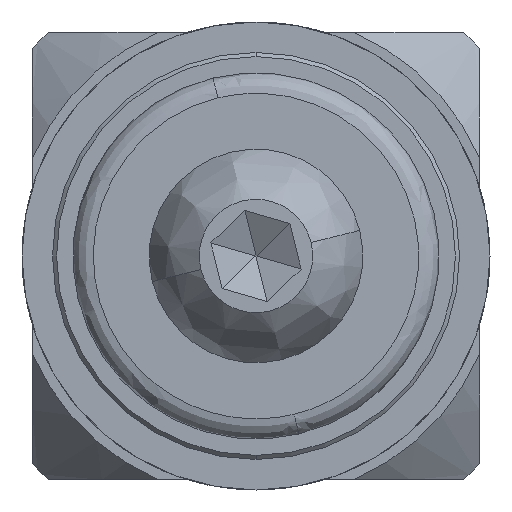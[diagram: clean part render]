
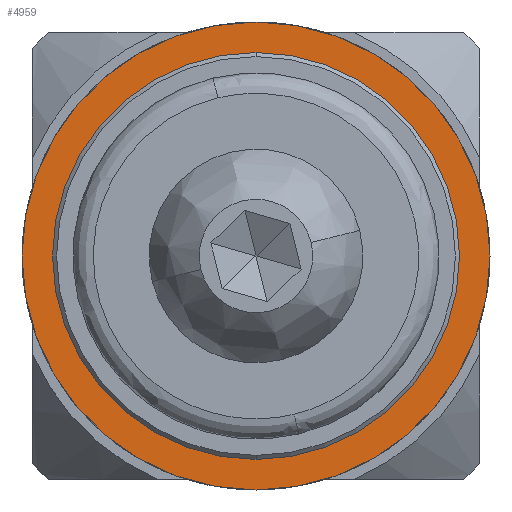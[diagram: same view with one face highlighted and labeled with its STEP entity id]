
A CAD part, front view. The second image highlights one B-rep face of the part: STEP entity #4959.
In plain terms, the highlighted planar face has unit normal (0, -1, 0).
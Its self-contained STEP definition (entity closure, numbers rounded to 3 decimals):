
#123 = EDGE_LOOP ( 'NONE', ( #5303, #2820 ) ) ;
#136 = CIRCLE ( 'NONE', #972, 10. ) ;
#329 = EDGE_LOOP ( 'NONE', ( #2823, #5042 ) ) ;
#596 = DIRECTION ( 'NONE',  ( 0., 1., 0. ) ) ;
#654 = AXIS2_PLACEMENT_3D ( 'NONE', #3501, #596, #1371 ) ;
#697 = CARTESIAN_POINT ( 'NONE',  ( -3.515, 30.535, 42. ) ) ;
#705 = CARTESIAN_POINT ( 'NONE',  ( -3.515, 30.535, 22. ) ) ;
#838 = AXIS2_PLACEMENT_3D ( 'NONE', #2088, #2081, #2071 ) ;
#906 = AXIS2_PLACEMENT_3D ( 'NONE', #2255, #2291, #1795 ) ;
#972 = AXIS2_PLACEMENT_3D ( 'NONE', #1852, #2425, #2138 ) ;
#1016 = CIRCLE ( 'NONE', #906, 10. ) ;
#1102 = FACE_OUTER_BOUND ( 'NONE', #123, .T. ) ;
#1371 = DIRECTION ( 'NONE',  ( 1., 0., 0. ) ) ;
#1464 = CARTESIAN_POINT ( 'NONE',  ( -15.015, 30.535, 32. ) ) ;
#1575 = CARTESIAN_POINT ( 'NONE',  ( 7.985, 30.535, 32. ) ) ;
#1795 = DIRECTION ( 'NONE',  ( 0., 0., -1. ) ) ;
#1848 = AXIS2_PLACEMENT_3D ( 'NONE', #2064, #2107, #4170 ) ;
#1852 = CARTESIAN_POINT ( 'NONE',  ( -3.515, 30.535, 32. ) ) ;
#1987 = EDGE_CURVE ( 'NONE', #5030, #4577, #4579, .T. ) ;
#2064 = CARTESIAN_POINT ( 'NONE',  ( -3.515, 30.535, 32. ) ) ;
#2071 = DIRECTION ( 'NONE',  ( 0., 0., 1. ) ) ;
#2081 = DIRECTION ( 'NONE',  ( 0., 1., 0. ) ) ;
#2088 = CARTESIAN_POINT ( 'NONE',  ( -15.153, 30.535, 20.362 ) ) ;
#2107 = DIRECTION ( 'NONE',  ( 0., 1., 0. ) ) ;
#2121 = PLANE ( 'NONE',  #838 ) ;
#2138 = DIRECTION ( 'NONE',  ( 0., 0., -1. ) ) ;
#2245 = FACE_BOUND ( 'NONE', #329, .T. ) ;
#2255 = CARTESIAN_POINT ( 'NONE',  ( -3.515, 30.535, 32. ) ) ;
#2291 = DIRECTION ( 'NONE',  ( 0., 1., 0. ) ) ;
#2425 = DIRECTION ( 'NONE',  ( 0., 1., 0. ) ) ;
#2820 = ORIENTED_EDGE ( 'NONE', *, *, #1987, .F. ) ;
#2823 = ORIENTED_EDGE ( 'NONE', *, *, #3603, .T. ) ;
#3501 = CARTESIAN_POINT ( 'NONE',  ( -3.515, 30.535, 32. ) ) ;
#3603 = EDGE_CURVE ( 'NONE', #5100, #5103, #136, .T. ) ;
#3639 = EDGE_CURVE ( 'NONE', #5103, #5100, #1016, .T. ) ;
#4170 = DIRECTION ( 'NONE',  ( 1., 0., 0. ) ) ;
#4223 = EDGE_CURVE ( 'NONE', #4577, #5030, #4429, .T. ) ;
#4429 = CIRCLE ( 'NONE', #654, 11.5 ) ;
#4577 = VERTEX_POINT ( 'NONE', #1575 ) ;
#4579 = CIRCLE ( 'NONE', #1848, 11.5 ) ;
#4959 = ADVANCED_FACE ( 'NONE', ( #2245, #1102 ), #2121, .F. ) ;
#5030 = VERTEX_POINT ( 'NONE', #1464 ) ;
#5042 = ORIENTED_EDGE ( 'NONE', *, *, #3639, .T. ) ;
#5100 = VERTEX_POINT ( 'NONE', #705 ) ;
#5103 = VERTEX_POINT ( 'NONE', #697 ) ;
#5303 = ORIENTED_EDGE ( 'NONE', *, *, #4223, .F. ) ;
